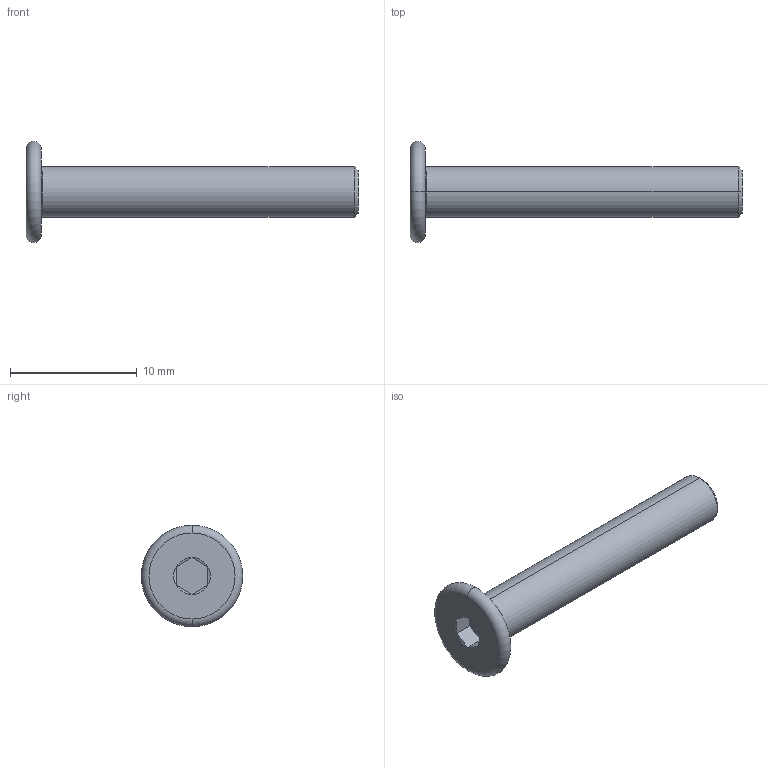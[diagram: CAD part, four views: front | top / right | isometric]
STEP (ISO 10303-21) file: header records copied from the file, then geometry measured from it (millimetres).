
FILE_DESCRIPTION (( 'STEP AP203' ), '1' );
FILE_NAME ('LGD-304M-M4x25.STEP', '2026-08-13T10:11:03', ( '' ), ( '' ), 'SwSTEP 2.0', 'SolidWorks 2020', '' );
FILE_SCHEMA (( 'CONFIG_CONTROL_DESIGN' ));
Length unit declared in the file: millimetre
Products named in the file (1): LGD-304M-M4x25
Bounding box: 26.2 x 8 x 8 mm (x, y, z)
Volume: 362.1 mm3; surface area: 441.4 mm2
Topology: 1 solids, 1 shells, 24 faces, 44 edges, 24 vertices
Faces by surface type: plane 10, cone 8, torus 4, cylinder 2
Entity records: 673 total; most frequent: CARTESIAN_POINT 119, DIRECTION 110, ORIENTED_EDGE 88, AXIS2_PLACEMENT_3D 47, EDGE_CURVE 44, EDGE_LOOP 26, FACE_OUTER_BOUND 24, VERTEX_POINT 24
